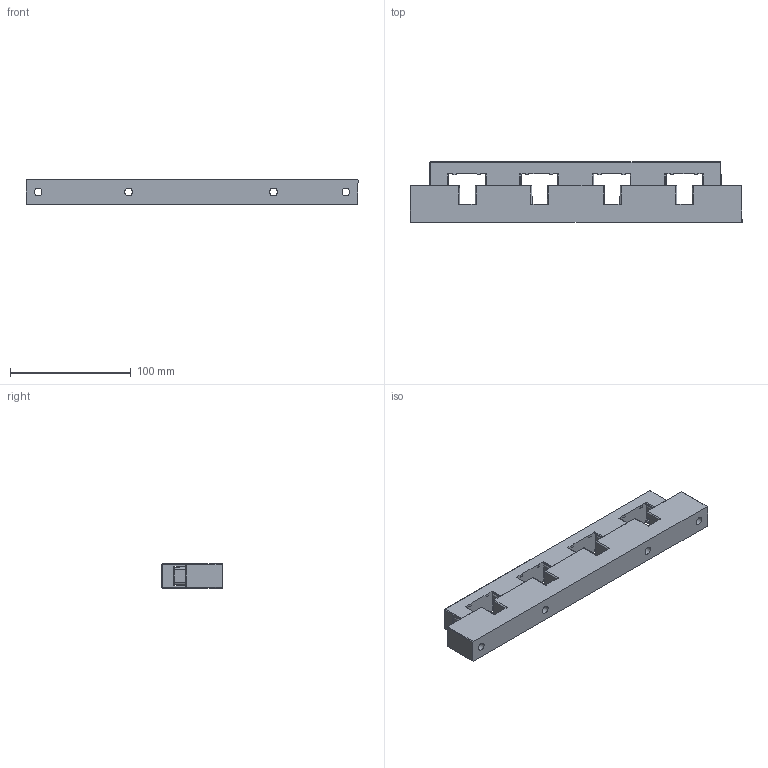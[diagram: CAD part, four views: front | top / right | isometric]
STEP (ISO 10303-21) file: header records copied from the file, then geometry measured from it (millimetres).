
FILE_DESCRIPTION (( 'STEP AP214' ), '1' );
FILE_NAME ('52004.STEP', '2021-08-09T06:31:56', ( '' ), ( '' ), 'SwSTEP 2.0', 'SolidWorks 2017', '' );
FILE_SCHEMA (( 'AUTOMOTIVE_DESIGN' ));
Length unit declared in the file: millimetre
Products named in the file (2): 52004
Bounding box: 275.05 x 49.95 x 20 mm (x, y, z)
Volume: 188298.2 mm3; surface area: 84489.6 mm2
Topology: 7 solids, 36 shells, 2187 faces, 7277 edges, 4825 vertices
Faces by surface type: plane 1434, cylinder 575, cone 93, bspline 80, torus 5
Full cylindrical faces by diameter (mm): 4.2 x5, 5 x5, 5.3 x5, 5.5 x5, 6.5 x10, 7.002 x5, 10 x2, 11 x2
Entity records: 110021 total; most frequent: CARTESIAN_POINT 24558, ORIENTED_EDGE 14292, DIRECTION 11400, EDGE_CURVE 7146, VERTEX_POINT 4809, LINE 4350, VECTOR 4350, AXIS2_PLACEMENT_3D 3525
